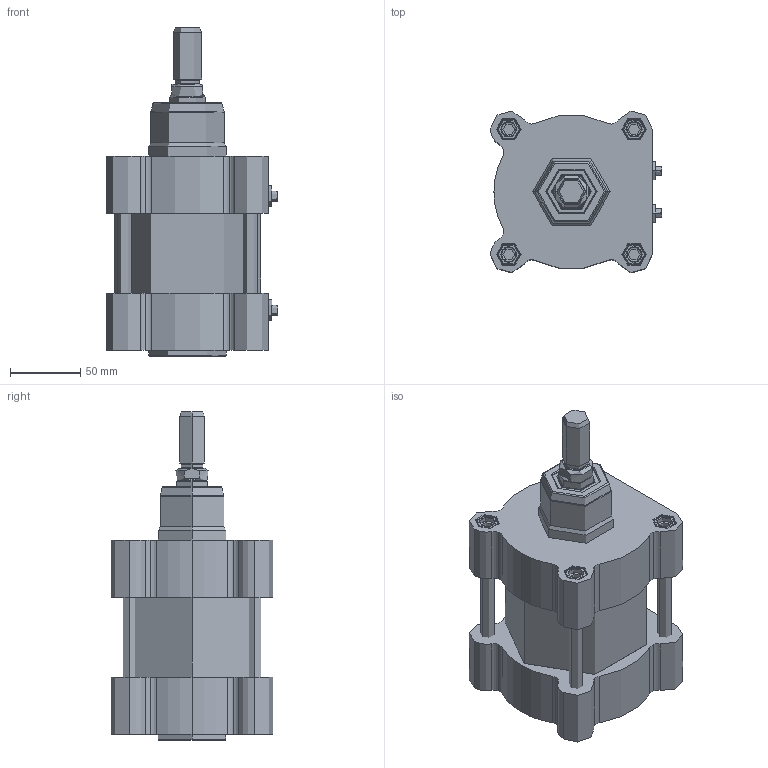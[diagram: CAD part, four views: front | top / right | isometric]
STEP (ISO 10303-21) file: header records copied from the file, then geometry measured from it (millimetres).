
FILE_DESCRIPTION(('STEP AP214'),'1');
FILE_NAME('81M100A0000.stp','2016-07-11T07:35:35',(' '),(' '),'Spatial InterOp 3D',' ',' ');
FILE_SCHEMA(('automotive_design'));
Length unit declared in the file: millimetre
Products named in the file (6): 81M100A0000; CORPO-000; STELO-000; TA; TIRANTE-000; TP
Assembly tree (8 placements, depth 2):
  81M100A0000
    CORPO-000
    STELO-000
    TA
    TIRANTE-000  x4
    TP
Bounding box: 121.5 x 114.63 x 233 mm (x, y, z)
Volume: 1137176.1 mm3; surface area: 198795.1 mm2
Topology: 16 solids, 17 shells, 701 faces, 1580 edges, 963 vertices
Faces by surface type: cone 216, cylinder 208, plane 191, torus 80, revolution 6
Full cylindrical faces by diameter (mm): 6.6 x1, 8 x1, 9.3 x1, 11.99 x1, 12 x1
Entity records: 25638 total; most frequent: CARTESIAN_POINT 4328, DIRECTION 3623, ORIENTED_EDGE 3078, EDGE_CURVE 1539, AXIS2_PLACEMENT_3D 1502, VERTEX_POINT 940, CIRCLE 810, EDGE_LOOP 747
